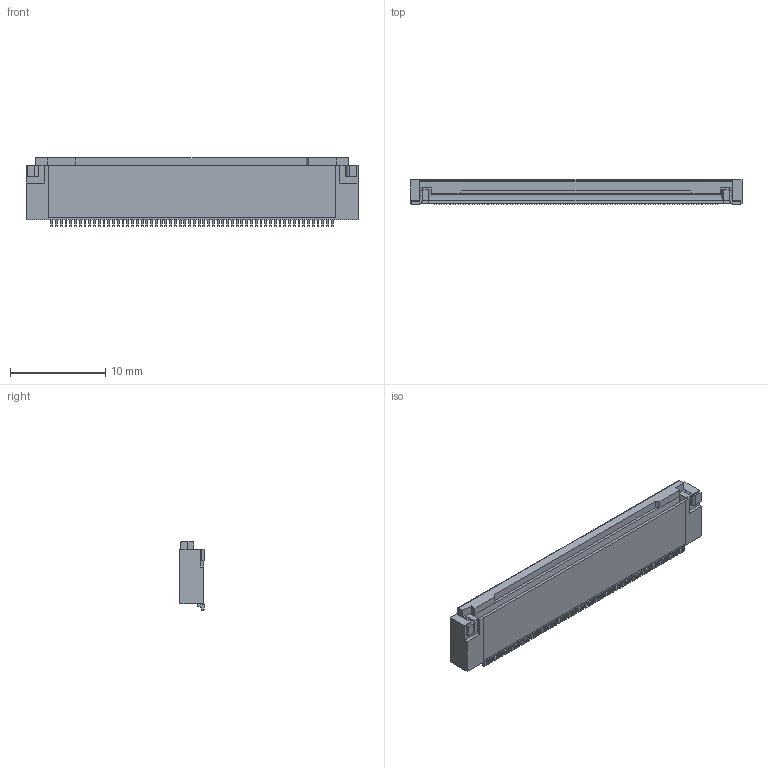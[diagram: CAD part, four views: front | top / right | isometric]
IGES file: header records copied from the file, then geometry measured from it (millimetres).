
Start section: SolidWorks IGES file using analytic representation for surfaces
Global section: file name: 01HC:\3dworks\金子\MINIFLEX5-FF\STEP再作成\ACT　CLOSE\IGES\20647-060E-01 ASS'Y ACT CLOSE IGES R2 ALL.IGS; native system: SolidWorks 2014; preprocessor: SolidWorks 2014; author: ieng2-003; date: 161003.233235; units: millimetre
Bounding box: 34.9 x 2.55 x 7.2 mm (x, y, z)
Surface area: 874.4 mm2 (no closed solid volume)
Topology: 0 solids, 0 shells, 1607 faces, 10782 edges, 10782 vertices
Faces by surface type: bspline 995, revolution 612
